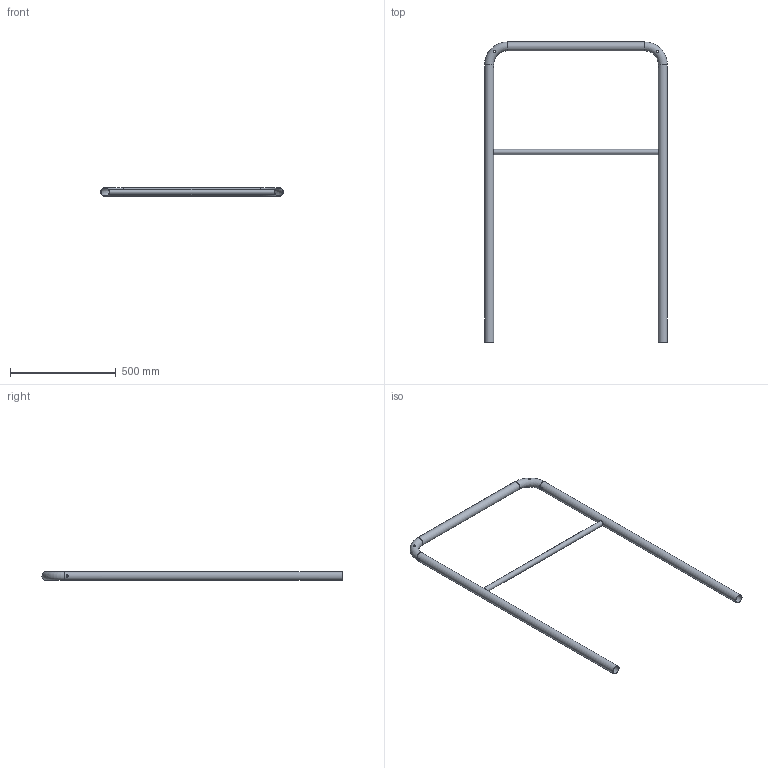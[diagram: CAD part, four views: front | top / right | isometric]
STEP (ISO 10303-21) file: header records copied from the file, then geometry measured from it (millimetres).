
FILE_DESCRIPTION((''),'2;1');
FILE_NAME('S:\Användarkataloger\AndreasA\Mina Inventor filer\Räcken\STEP\modul_ind_900-1400.stp','2010-09-07T13:12:56',('AndreasA'),(''),'Autodesk Inventor 2011','Autodesk Inventor 2011','');
FILE_SCHEMA(('AUTOMOTIVE_DESIGN { 1 0 10303 214 1 1 1 1 }'));
Length unit declared in the file: millimetre
Products named in the file (3): modul_ind_900-1400; handledare_modul_900-1400; mellanliggare_modul_900
Assembly tree (2 placements, depth 2):
  modul_ind_900-1400
    handledare_modul_900-1400
    mellanliggare_modul_900
Bounding box: 865.4 x 1421.2 x 42.4 mm (x, y, z)
Volume: 1012222.8 mm3; surface area: 1013556.7 mm2
Topology: 2 solids, 2 shells, 24 faces, 64 edges, 40 vertices
Faces by surface type: cylinder 16, torus 4, plane 4
Full cylindrical faces by diameter (mm): 10 x4, 11 x4, 21 x1, 25 x1, 38.4 x3, 42.4 x3
Entity records: 1354 total; most frequent: CARTESIAN_POINT 809, DIRECTION 90, ORIENTED_EDGE 64, EDGE_LOOP 64, AXIS2_PLACEMENT_3D 45, FACE_BOUND 40, VERTEX_POINT 32, EDGE_CURVE 32
